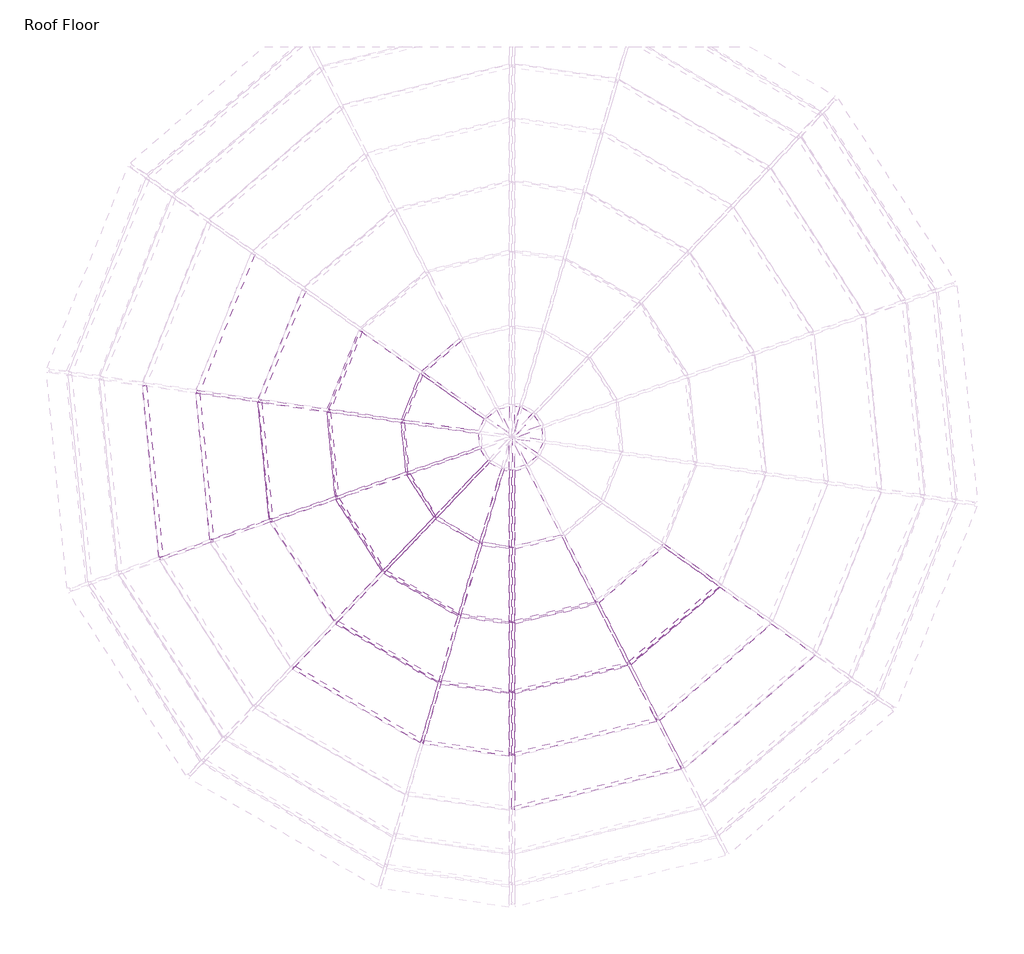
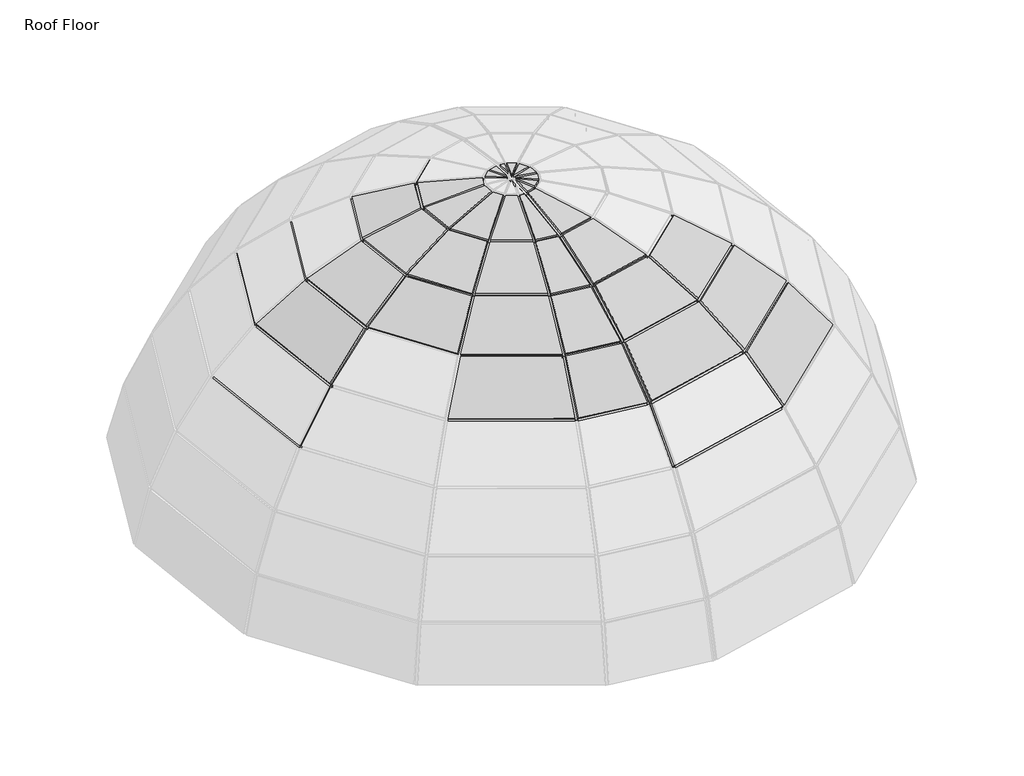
# One storey, part 2 of 5: 56 members, 33 plates.
"""IFC4 building model written with IfcOpenShell, lengths in millimetres."""

from ifc_helpers import new_model, si_unit, origin, place, context, project, spatial, transform, mapped, element, save
from components import member_a4b9d852, member_e5884c93, member_68b33a8a, member_7f7bd10d, member_27f65fe7, member_3534141e, member_a4aff84e, member_5ef621be, member_c4213f63, member_b6c57be0, member_ac816b31, member_27e61d6b, member_355504b0, member_dee8aa16, member_0ec1a058, member_85a1b8f2, member_4046197d, member_16c772f1, member_ac46e98e, member_b6a9e346, member_16816f3b, member_d3833f24, member_335e9b28, member_95e271e4, member_fbc4017a, system_panel_glazed_0487fba4, system_panel_glazed_ecd34a34, system_panel_glazed_bd6fc11e, system_panel_glazed_7ee87b59, system_panel_glazed_82f63ae4, system_panel_glazed_cc30576f, system_panel_glazed_e6c51f9e, system_panel_glazed_c38a1470, system_panel_glazed_e8cc6fa0, system_panel_glazed_475a38df, system_panel_glazed_a1227523, system_panel_glazed_6841621f, system_panel_glazed_d824ba65, system_panel_glazed_d98a6b36, system_panel_glazed_8f1ce6c8, system_panel_glazed_43588e67, system_panel_glazed_91be5447, system_panel_glazed_17da916d, system_panel_glazed_3ea0f70b, system_panel_glazed_2eba2ceb, system_panel_glazed_dba1addb, system_panel_glazed_f06ff00c

model = new_model("IFC4")

# Units and contexts
model_context = context("Model", 3, world=origin())
ifc_project = project(units=[si_unit("LENGTHUNIT", "METRE", prefix="MILLI")], contexts=[model_context])

# Site, building, storey
site = spatial("IfcSite", under=ifc_project)
building = spatial("IfcBuilding", under=site)
storey = spatial("IfcBuildingStorey", under=building, Name="Roof Floor", Elevation=15240.0)

# Members
placement = place(None, origin())
member_shape = member_a4b9d852(model_context)
element("IfcMember", 1, ObjectType="Rectangular Mullion : 1\" Square", at=placement, inside=storey, context=model_context, shape_type="MappedRepresentation", body=[
    mapped(member_shape, transform((-1076.5556828, -3418.7511629, 21675.0614442), x_axis=(-0.1768450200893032, 0.7291506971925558, 0.6611089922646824), y_axis=(0.15582488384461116, -0.6424824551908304, 0.7502898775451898), z_axis=(0.9718253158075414, 0.23570226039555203, 0.0))),
])
member_2_shape = member_e5884c93(model_context)
element("IfcMember", 2, ObjectType="Rectangular Mullion : 1\" Square", at=placement, inside=storey, context=model_context, shape_type="MappedRepresentation", body=[
    mapped(member_2_shape, transform((-5866.2465514, -1846.2239324, 21117.9670279), x_axis=(0.6270371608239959, 0.059616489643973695, 0.7767047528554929), y_axis=(-0.7732178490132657, -0.07351483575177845, 0.6298648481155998), z_axis=(0.09464965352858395, -0.9955106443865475, 0.0))),
])
member_3_shape = member_68b33a8a(model_context)
element("IfcMember", 3, ObjectType="Rectangular Mullion : 1\" Square", at=placement, inside=storey, context=model_context, shape_type="MappedRepresentation", body=[
    mapped(member_3_shape, transform((-838.3803456, -3880.8791972, 21117.9670279), x_axis=(-0.14846056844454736, 0.6121186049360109, 0.7767047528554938), y_axis=(0.1830710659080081, -0.7548213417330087, 0.6298648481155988), z_axis=(0.9718253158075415, 0.23570226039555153, 0.0))),
])
member_4_shape = member_7f7bd10d(model_context)
element("IfcMember", 4, ObjectType="Rectangular Mullion : 1\" Square", at=placement, inside=storey, context=model_context, shape_type="MappedRepresentation", body=[
    mapped(member_4_shape, transform((-5510.6873443, -247.8745755, 21675.0614442), x_axis=(-0.14266117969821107, -0.9897715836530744, 0.0), y_axis=(-0.6014088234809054, 0.08668433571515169, 0.7942249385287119), z_axis=(-0.7861012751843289, 0.11330506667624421, -0.6076238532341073))),
])
element("IfcMember", 5, ObjectType="Rectangular Mullion : 1\" Square", at=placement, inside=storey, context=model_context, shape_type="MappedRepresentation", body=[
    mapped(member_4_shape, transform((-4911.6781726, -334.2130363, 22138.0708204), x_axis=(-0.14266117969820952, -0.9897715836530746, 0.0), y_axis=(-0.46249475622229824, 0.0666618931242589, 0.8841124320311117), z_axis=(-0.8750693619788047, 0.12612852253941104, -0.4672742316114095))),
])
element("IfcMember", 6, ObjectType="Rectangular Mullion : 1\" Square", at=placement, inside=storey, context=model_context, shape_type="MappedRepresentation", body=[
    mapped(member_4_shape, transform((-4244.8753188, -430.3229705, 22494.1337848), x_axis=(-0.1426611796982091, -0.9897715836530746, 0.0), y_axis=(-0.31073361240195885, 0.04478773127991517, 0.9494412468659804), z_axis=(-0.9397299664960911, 0.13544840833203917, -0.3139447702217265))),
])
element("IfcMember", 7, ObjectType="Rectangular Mullion : 1\" Square", at=placement, inside=storey, context=model_context, shape_type="MappedRepresentation", body=[
    mapped(member_4_shape, transform((-826.0381641, -3877.8857785, 21117.9670279), x_axis=(0.8888888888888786, 0.4581228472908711, 0.0), y_axis=(0.3349313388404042, -0.6498622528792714, 0.6822756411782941), z_axis=(0.3125660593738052, -0.6064672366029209, -0.7310950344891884))),
])
element("IfcMember", 8, ObjectType="Rectangular Mullion : 1\" Square", at=placement, inside=storey, context=model_context, shape_type="MappedRepresentation", body=[
    mapped(member_4_shape, transform((-1064.2135013, -3415.7577442, 21675.0614442), x_axis=(0.8888888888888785, 0.45812284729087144, 0.0), y_axis=(0.27836636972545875, -0.5401100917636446, 0.7942249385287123), z_axis=(0.36385259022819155, -0.7059777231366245, -0.6076238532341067))),
])
element("IfcMember", 9, ObjectType="Rectangular Mullion : 1\" Square", at=placement, inside=storey, context=model_context, shape_type="MappedRepresentation", body=[
    mapped(member_4_shape, transform((-1341.4691751, -2877.8027191, 22138.0708204), x_axis=(0.8888888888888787, 0.4581228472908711, 0.0), y_axis=(0.21406900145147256, -0.41535487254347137, 0.8841124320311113), z_axis=(0.4050321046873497, -0.7858777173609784, -0.46727423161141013))),
])
element("IfcMember", 10, ObjectType="Rectangular Mullion : 1\" Square", at=placement, inside=storey, context=model_context, shape_type="MappedRepresentation", body=[
    mapped(member_4_shape, transform((-1650.1036388, -2278.9638985, 22494.1337848), x_axis=(0.8888888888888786, 0.45812284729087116, 0.0), y_axis=(0.14382527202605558, -0.27906201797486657, 0.9494412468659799), z_axis=(0.4349607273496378, -0.8439477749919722, -0.31394477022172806))),
])
element("IfcMember", 11, ObjectType="Rectangular Mullion : 1\" Square", at=placement, inside=storey, context=model_context, shape_type="MappedRepresentation", body=[
    mapped(member_4_shape, transform((-462.8630546, -2116.7552742, 22138.0708204), x_axis=(0.5802469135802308, 0.8144406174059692, 0.0), y_axis=(0.3805671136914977, -0.27113443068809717, 0.88411243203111), z_axis=(0.7200570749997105, -0.5130035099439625, -0.4672742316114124))),
])
member_5_shape = member_27f65fe7(model_context)
element("IfcMember", 12, ObjectType="Rectangular Mullion : 1\" Square", at=placement, inside=storey, context=model_context, shape_type="MappedRepresentation", body=[
    mapped(member_5_shape, transform((-3341.437887, -65.9192447, 22733.3596998), x_axis=(-0.5802469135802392, -0.8144406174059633, 0.0), y_axis=(-0.1237091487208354, 0.08813638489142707, 0.9883966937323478), z_axis=(-0.804990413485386, 0.5735141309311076, -0.15189462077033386))),
])
element("IfcMember", 13, ObjectType="Rectangular Mullion : 1\" Square", at=placement, inside=storey, context=model_context, shape_type="MappedRepresentation", body=[
    mapped(member_5_shape, transform((-3528.8010843, -533.5346577, 22733.3596998), x_axis=(-0.1426611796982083, -0.9897715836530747, 0.0), y_axis=(-0.15034097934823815, 0.02166946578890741, 0.9883966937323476), z_axis=(-0.9782869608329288, 0.14100583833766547, -0.1518946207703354))),
])
member_6_shape = member_3534141e(model_context)
element("IfcMember", 14, ObjectType="Rectangular Mullion : 1\" Square", at=placement, inside=storey, context=model_context, shape_type="MappedRepresentation", body=[
    mapped(member_6_shape, transform((-2471.1056157, -1001.4536154, 22849.1034008), x_axis=(-0.9993221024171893, -0.005591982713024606, 0.036387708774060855), y_axis=(0.036814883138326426, -0.15179165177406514, 0.9877266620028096), z_axis=(0.0, 0.9883966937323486, 0.1518946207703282))),
])
member_7_shape = member_a4aff84e(model_context)
element("IfcMember", 15, ObjectType="Rectangular Mullion : 1\" Square", at=placement, inside=storey, context=model_context, shape_type="MappedRepresentation", body=[
    mapped(member_7_shape, transform((-2471.1056157, -2478.0861261, 22494.1337848), x_axis=(0.9989777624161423, -0.014191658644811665, 0.04291884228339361), y_axis=(-0.045204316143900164, -0.31362384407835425, 0.9484706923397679), z_axis=(0.0, -0.9494412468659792, -0.31394477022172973))),
])
member_8_shape = member_5ef621be(model_context)
element("IfcMember", 16, ObjectType="Rectangular Mullion : 1\" Square", at=placement, inside=storey, context=model_context, shape_type="MappedRepresentation", body=[
    mapped(member_8_shape, transform((-2471.1056157, -1754.611896, 22733.3596998), x_axis=(0.9997604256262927, -0.003324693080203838, 0.02163418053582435), y_axis=(-0.021888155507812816, -0.15185823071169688, 0.988159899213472), z_axis=(0.0, -0.9883966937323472, -0.15189462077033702))),
])
member_9_shape = member_c4213f63(model_context)
element("IfcMember", 17, ObjectType="Rectangular Mullion : 1\" Square", at=placement, inside=storey, context=model_context, shape_type="MappedRepresentation", body=[
    mapped(member_9_shape, transform((-2471.1056157, -3756.9792025, 21675.0614442), x_axis=(-0.9846406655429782, -0.12764416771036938, 0.11912063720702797), y_axis=(0.1745931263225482, -0.719865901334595, 0.6717963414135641), z_axis=(0.0, 0.6822756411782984, 0.7310950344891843))),
])
member_10_shape = member_b6c57be0(model_context)
element("IfcMember", 18, ObjectType="Rectangular Mullion : 1\" Square", at=placement, inside=storey, context=model_context, shape_type="MappedRepresentation", body=[
    mapped(member_10_shape, transform((-2471.1056157, -3151.7797993, 22138.0708204), x_axis=(-0.9893147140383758, -0.08858896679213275, 0.11579460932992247), y_axis=(0.14579573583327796, -0.6011312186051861, 0.7857384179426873), z_axis=(0.0, 0.7942249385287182, 0.6076238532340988))),
])
member_11_shape = member_ac816b31(model_context)
element("IfcMember", 19, ObjectType="Rectangular Mullion : 1\" Square", at=placement, inside=storey, context=model_context, shape_type="MappedRepresentation", body=[
    mapped(member_11_shape, transform((-2471.1056157, -2478.0861261, 22494.1337848), x_axis=(-0.993639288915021, -0.05261965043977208, 0.0995597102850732), y_axis=(0.11260978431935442, -0.46430203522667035, 0.8784888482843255), z_axis=(0.0, 0.8841124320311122, 0.4672742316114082))),
])
member_12_shape = member_27e61d6b(model_context)
element("IfcMember", 20, ObjectType="Rectangular Mullion : 1\" Square", at=placement, inside=storey, context=model_context, shape_type="MappedRepresentation", body=[
    mapped(member_12_shape, transform((-2471.1056157, -1754.611896, 22733.3596998), x_axis=(-0.9971136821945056, -0.023835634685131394, 0.07208444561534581), y_axis=(0.07592301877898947, -0.3130386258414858, 0.9467008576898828), z_axis=(0.0, 0.9494412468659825, 0.3139447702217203))),
])
member_13_shape = member_355504b0(model_context)
element("IfcMember", 21, ObjectType="Rectangular Mullion : 1\" Square", at=placement, inside=storey, context=model_context, shape_type="MappedRepresentation", body=[
    mapped(member_13_shape, transform((-2496.2458139, -1750.988302, 22733.3596998), x_axis=(0.13878677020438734, 0.9628912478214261, 0.2314706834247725), y_axis=(-0.033021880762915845, -0.2291031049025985, 0.9728418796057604), z_axis=(0.9897715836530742, -0.14266117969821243, 0.0))),
])
member_14_shape = member_dee8aa16(model_context)
element("IfcMember", 22, ObjectType="Rectangular Mullion : 1\" Square", at=placement, inside=storey, context=model_context, shape_type="MappedRepresentation", body=[
    mapped(member_14_shape, transform((-2783.8842291, -1704.7570429, 22733.3596998), x_axis=(0.48743077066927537, 0.8430054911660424, 0.22749282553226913), y_axis=(-0.11387277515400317, -0.19694155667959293, 0.9737797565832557), z_axis=(0.8657044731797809, -0.5005554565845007, 0.0))),
])
element("IfcMember", 23, ObjectType="Rectangular Mullion : 1\" Square", at=placement, inside=storey, context=model_context, shape_type="MappedRepresentation", body=[
    mapped(member_14_shape, transform((-3215.8533052, -1448.26924, 22733.3596998), x_axis=(0.8194718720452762, 0.5260350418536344, 0.22749282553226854), y_axis=(-0.19144367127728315, -0.12289144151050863, 0.9737797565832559), z_axis=(0.5401991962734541, -0.8415371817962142, 0.0))),
])
element("IfcMember", 24, ObjectType="Rectangular Mullion : 1\" Square", at=placement, inside=storey, context=model_context, shape_type="MappedRepresentation", body=[
    mapped(member_14_shape, transform((-3482.3228948, -1022.3851788, 22733.3596998), x_axis=(0.9694081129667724, 0.09216791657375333, 0.22749282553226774), y_axis=(-0.22647152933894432, -0.02153211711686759, 0.973779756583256), z_axis=(0.09464965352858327, -0.9955106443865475, 0.0))),
])
element("IfcMember", 25, ObjectType="Rectangular Mullion : 1\" Square", at=placement, inside=storey, context=model_context, shape_type="MappedRepresentation", body=[
    mapped(member_14_shape, transform((-3524.0775334, -521.7457618, 22733.3596998), x_axis=(0.9039203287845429, -0.3621809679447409, 0.22749282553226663), y_axis=(-0.2111723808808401, 0.08461212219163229, 0.9737797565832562), z_axis=(-0.37193314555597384, -0.9282595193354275, 0.0))),
])
element("IfcMember", 26, ObjectType="Rectangular Mullion : 1\" Square", at=placement, inside=storey, context=model_context, shape_type="MappedRepresentation", body=[
    mapped(member_14_shape, transform((-3331.8384125, -57.6041927, 22733.3596998), x_axis=(0.6375613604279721, -0.736045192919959, 0.2274928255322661), y_axis=(-0.1489460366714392, 0.17195366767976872, 0.9737797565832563), z_axis=(-0.7558641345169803, -0.6547285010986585, 0.0))),
])
member_15_shape = member_0ec1a058(model_context)
element("IfcMember", 27, ObjectType="Rectangular Mullion : 1\" Square", at=placement, inside=storey, context=model_context, shape_type="MappedRepresentation", body=[
    mapped(member_15_shape, transform((-2471.1056157, -3756.9792025, 21675.0614442), x_axis=(0.9961867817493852, -0.05301285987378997, 0.06929309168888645), y_axis=(-0.08724617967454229, -0.6053068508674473, 0.7911963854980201), z_axis=(0.0, -0.7942249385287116, -0.6076238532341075))),
])
member_16_shape = member_85a1b8f2(model_context)
element("IfcMember", 28, ObjectType="Rectangular Mullion : 1\" Square", at=placement, inside=storey, context=model_context, shape_type="MappedRepresentation", body=[
    mapped(member_16_shape, transform((-2471.1056157, -3151.7797993, 22138.0708204), x_axis=(0.9977396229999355, -0.031400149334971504, 0.05941107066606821), y_axis=(-0.06719854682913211, -0.4662180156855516, 0.8821140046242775), z_axis=(0.0, -0.8841124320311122, -0.4672742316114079))),
])
member_17_shape = member_4046197d(model_context)
element("IfcMember", 29, ObjectType="Rectangular Mullion : 1\" Square", at=placement, inside=storey, context=model_context, shape_type="MappedRepresentation", body=[
    mapped(member_17_shape, transform((-2496.2458139, -2474.4625322, 22494.1337848), x_axis=(0.13145065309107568, 0.9119938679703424, 0.38857162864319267), y_axis=(-0.05543408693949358, -0.3845971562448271, 0.9214185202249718), z_axis=(0.989771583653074, -0.1426611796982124, 0.0))),
])
member_18_shape = member_16c772f1(model_context)
element("IfcMember", 30, ObjectType="Rectangular Mullion : 1\" Square", at=placement, inside=storey, context=model_context, shape_type="MappedRepresentation", body=[
    mapped(member_18_shape, transform((-2988.1962192, -2398.7826709, 22494.1337848), x_axis=(0.4624774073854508, 0.7998489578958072, 0.3825654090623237), y_axis=(-0.19149520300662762, -0.3311885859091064, 0.923928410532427), z_axis=(0.865704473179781, -0.5005554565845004, 0.0))),
])
element("IfcMember", 31, ObjectType="Rectangular Mullion : 1\" Square", at=placement, inside=storey, context=model_context, shape_type="MappedRepresentation", body=[
    mapped(member_18_shape, transform((-3715.4129599, -1971.5809187, 22494.1337848), x_axis=(0.7775201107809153, 0.4991053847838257, 0.38256540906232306), y_axis=(-0.3219430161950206, -0.20666152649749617, 0.9239284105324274), z_axis=(0.5401991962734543, -0.841537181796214, 0.0))),
])
element("IfcMember", 32, ObjectType="Rectangular Mullion : 1\" Square", at=placement, inside=storey, context=model_context, shape_type="MappedRepresentation", body=[
    mapped(member_18_shape, transform((-4166.1169574, -1258.6914241, 22494.1337848), x_axis=(0.919780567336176, 0.08744950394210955, 0.3825654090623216), y_axis=(-0.3808479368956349, -0.03620968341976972, 0.9239284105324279), z_axis=(0.09464965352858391, -0.9955106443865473, 0.0))),
])
element("IfcMember", 33, ObjectType="Rectangular Mullion : 1\" Square", at=placement, inside=storey, context=model_context, shape_type="MappedRepresentation", body=[
    mapped(member_18_shape, transform((-4240.1517679, -418.5340746, 22494.1337848), x_axis=(0.8576453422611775, -0.34363959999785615, 0.38256540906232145), y_axis=(-0.35511998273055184, 0.14228875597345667, 0.923928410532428), z_axis=(-0.3719331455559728, -0.9282595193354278, 0.0))),
])
member_19_shape = member_ac46e98e(model_context)
element("IfcMember", 34, ObjectType="Rectangular Mullion : 1\" Square", at=placement, inside=storey, context=model_context, shape_type="MappedRepresentation", body=[
    mapped(member_19_shape, transform((-1662.4458203, -2281.9573172, 22494.1337848), x_axis=(-0.21777201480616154, 0.8978970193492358, 0.38256540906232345), y_axis=(0.0901715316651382, -0.37178674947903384, 0.9239284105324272), z_axis=(0.9718253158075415, 0.23570226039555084, 0.0))),
])
member_20_shape = member_b6a9e346(model_context)
element("IfcMember", 35, ObjectType="Rectangular Mullion : 1\" Square", at=placement, inside=storey, context=model_context, shape_type="MappedRepresentation", body=[
    mapped(member_20_shape, transform((-2496.2458139, -3148.1562054, 22138.0708204), x_axis=(0.1204918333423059, 0.8359624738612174, 0.5353956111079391), y_axis=(-0.07638016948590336, -0.5299193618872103, 0.8446014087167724), z_axis=(0.9897715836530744, -0.14266117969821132, 0.0))),
])
member_21_shape = member_16816f3b(model_context)
element("IfcMember", 36, ObjectType="Rectangular Mullion : 1\" Square", at=placement, inside=storey, context=model_context, shape_type="MappedRepresentation", body=[
    mapped(member_21_shape, transform((-3178.4499827, -3045.0540309, 22138.0708204), x_axis=(0.42496420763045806, 0.7349703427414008, 0.5284165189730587), y_axis=(-0.2645017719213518, -0.4574525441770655, 0.8489852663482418), z_axis=(0.865704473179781, -0.5005554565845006, 0.0))),
])
element("IfcMember", 37, ObjectType="Rectangular Mullion : 1\" Square", at=placement, inside=storey, context=model_context, shape_type="MappedRepresentation", body=[
    mapped(member_21_shape, transform((-4802.8607619, -1478.7379934, 22138.0708204), x_axis=(0.8451738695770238, 0.08035616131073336, 0.5284165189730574), y_axis=(-0.5260442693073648, -0.050014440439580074, 0.8489852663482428), z_axis=(0.09464965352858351, -0.9955106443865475, 0.0))),
])
element("IfcMember", 38, ObjectType="Rectangular Mullion : 1\" Square", at=placement, inside=storey, context=model_context, shape_type="MappedRepresentation", body=[
    mapped(member_21_shape, transform((-4906.9546217, -322.4241404, 22138.0708204), x_axis=(0.7880786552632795, -0.3157657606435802, 0.5284165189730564), y_axis=(-0.4905076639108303, 0.19653561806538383, 0.8489852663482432), z_axis=(-0.3719331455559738, -0.9282595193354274, 0.0))),
])
element("IfcMember", 39, ObjectType="Rectangular Mullion : 1\" Square", at=placement, inside=storey, context=model_context, shape_type="MappedRepresentation", body=[
    mapped(member_21_shape, transform((-472.4625291, -2125.0703261, 22138.0708204), x_axis=(-0.5558548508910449, 0.6417175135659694, 0.5284165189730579), y_axis=(0.3459693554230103, -0.399411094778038, 0.8489852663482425), z_axis=(0.7558641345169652, 0.654728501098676, 0.0))),
])
member_22_shape = member_d3833f24(model_context)
element("IfcMember", 40, ObjectType="Rectangular Mullion : 1\" Square", at=placement, inside=storey, context=model_context, shape_type="MappedRepresentation", body=[
    mapped(member_22_shape, transform((-1353.8113566, -2880.7961378, 22138.0708204), x_axis=(-0.20010774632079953, 0.8250653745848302, 0.5284165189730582), y_axis=(0.12454896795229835, -0.5135285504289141, 0.8489852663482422), z_axis=(0.9718253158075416, 0.23570226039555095, 0.0))),
])
member_23_shape = member_335e9b28(model_context)
element("IfcMember", 41, ObjectType="Rectangular Mullion : 1\" Square", at=placement, inside=storey, context=model_context, shape_type="MappedRepresentation", body=[
    mapped(member_23_shape, transform((-2496.2458139, -3753.3556085, 21675.0614442), x_axis=(0.1061758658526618, 0.7366394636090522, 0.6678989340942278), y_axis=(-0.09528324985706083, -0.6610673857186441, 0.7442519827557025), z_axis=(0.9897715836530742, -0.1426611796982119, 0.0))),
])
member_24_shape = member_95e271e4(model_context)
element("IfcMember", 42, ObjectType="Rectangular Mullion : 1\" Square", at=placement, inside=storey, context=model_context, shape_type="MappedRepresentation", body=[
    mapped(member_24_shape, transform((-3349.3606929, -3625.6191408, 21675.0614442), x_axis=(0.3755616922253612, 0.6495293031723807, 0.6611089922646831), y_axis=(-0.3309217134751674, -0.5723250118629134, 0.7502898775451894), z_axis=(0.865704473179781, -0.5005554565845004, 0.0))),
])
element("IfcMember", 43, ObjectType="Rectangular Mullion : 1\" Square", at=placement, inside=storey, context=model_context, shape_type="MappedRepresentation", body=[
    mapped(member_24_shape, transform((-5374.8669805, -1676.4124822, 21675.0614442), x_axis=(0.7469215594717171, 0.07101467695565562, 0.6611089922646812), y_axis=(-0.6581410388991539, -0.06257373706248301, 0.750289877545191), z_axis=(0.09464965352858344, -0.9955106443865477, 0.0))),
])
element("IfcMember", 44, ObjectType="Rectangular Mullion : 1\" Square", at=placement, inside=storey, context=model_context, shape_type="MappedRepresentation", body=[
    mapped(member_24_shape, transform((-5505.9637934, -236.0856796, 21675.0614442), x_axis=(0.6964637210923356, -0.27905767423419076, 0.6611089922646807), y_axis=(-0.6136807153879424, 0.24588834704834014, 0.7502898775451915), z_axis=(-0.3719331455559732, -0.9282595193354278, 0.0))),
])
element("IfcMember", 45, ObjectType="Rectangular Mullion : 1\" Square", at=placement, inside=storey, context=model_context, shape_type="MappedRepresentation", body=[
    mapped(member_4_shape, transform((-5865.0445008, -1858.8669176, 21117.9670279), x_axis=(0.326627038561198, -0.9451533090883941, 0.0), y_axis=(-0.6909968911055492, -0.23879540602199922, 0.6822756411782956), z_axis=(-0.6448550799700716, -0.22284967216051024, -0.731095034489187))),
])
element("IfcMember", 46, ObjectType="Rectangular Mullion : 1\" Square", at=placement, inside=storey, context=model_context, shape_type="MappedRepresentation", body=[
    mapped(member_4_shape, transform((-5373.6649299, -1689.0554674, 21675.0614442), x_axis=(0.3266270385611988, -0.945153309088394, 0.0), y_axis=(-0.5742976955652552, -0.19846637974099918, 0.7942249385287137), z_axis=(-0.7506643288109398, -0.2594153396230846, -0.6076238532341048))),
])
element("IfcMember", 47, ObjectType="Rectangular Mullion : 1\" Square", at=placement, inside=storey, context=model_context, shape_type="MappedRepresentation", body=[
    mapped(member_4_shape, transform((-4801.6587113, -1491.3809786, 22138.0708204), x_axis=(0.3266270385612, -0.9451533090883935, 0.0), y_axis=(-0.44164578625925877, -0.15262439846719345, 0.8841124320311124), z_axis=(-0.8356217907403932, -0.288775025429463, -0.46727423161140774))),
])
element("IfcMember", 48, ObjectType="Rectangular Mullion : 1\" Square", at=placement, inside=storey, context=model_context, shape_type="MappedRepresentation", body=[
    mapped(member_4_shape, transform((-4164.9149068, -1271.3344092, 22494.1337848), x_axis=(0.3266270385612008, -0.9451533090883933, 0.0), y_axis=(-0.2967259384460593, -0.10254285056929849, 0.9494412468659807), z_axis=(-0.8973675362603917, -0.3101131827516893, -0.31394477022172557))),
])
element("IfcMember", 49, ObjectType="Rectangular Mullion : 1\" Square", at=placement, inside=storey, context=model_context, shape_type="MappedRepresentation", body=[
    mapped(member_4_shape, transform((-3708.5524301, -1982.2684409, 22494.1337848), x_axis=(0.7233314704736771, -0.6905009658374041, 0.0), y_axis=(-0.2167791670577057, -0.2270861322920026, 0.9494412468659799), z_axis=(-0.6555900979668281, -0.6867607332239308, -0.31394477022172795))),
])
element("IfcMember", 50, ObjectType="Rectangular Mullion : 1\" Square", at=placement, inside=storey, context=model_context, shape_type="MappedRepresentation", body=[
    mapped(member_4_shape, transform((-3338.3662461, -3631.976195, 21675.0614442), x_axis=(0.9592955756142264, -0.2824039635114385, 0.0), y_axis=(-0.17159538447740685, -0.5828908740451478, 0.7942249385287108), z_axis=(-0.22429227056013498, -0.7618964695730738, -0.6076238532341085))),
])
element("IfcMember", 51, ObjectType="Rectangular Mullion : 1\" Square", at=placement, inside=storey, context=model_context, shape_type="MappedRepresentation", body=[
    mapped(member_4_shape, transform((-3167.4555359, -3051.4110852, 22138.0708204), x_axis=(0.9592955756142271, -0.2824039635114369, 0.0), y_axis=(-0.13196009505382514, -0.44825410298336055, 0.8841124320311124), z_axis=(-0.24967685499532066, -0.8481251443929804, -0.46727423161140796))),
])
element("IfcMember", 52, ObjectType="Rectangular Mullion : 1\" Square", at=placement, inside=storey, context=model_context, shape_type="MappedRepresentation", body=[
    mapped(member_4_shape, transform((-2977.2017724, -2405.1397252, 22494.1337848), x_axis=(0.959295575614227, -0.282403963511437, 0.0), y_axis=(-0.08865924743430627, -0.30116582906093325, 0.9494412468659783), z_axis=(-0.26812597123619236, -0.9107947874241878, -0.31394477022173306))),
])
element("IfcMember", 53, ObjectType="Rectangular Mullion : 1\" Square", at=placement, inside=storey, context=model_context, shape_type="MappedRepresentation", body=[
    mapped(member_5_shape, transform((-3481.1208442, -1035.028164, 22733.3596998), x_axis=(0.32662703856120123, -0.945153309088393, 0.0), y_axis=(-0.1435637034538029, -0.04961289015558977, 0.9883966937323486), z_axis=(-0.9341864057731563, -0.32283708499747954, -0.15189462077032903))),
])
element("IfcMember", 54, ObjectType="Rectangular Mullion : 1\" Square", at=placement, inside=storey, context=model_context, shape_type="MappedRepresentation", body=[
    mapped(member_5_shape, transform((-3208.9927754, -1458.9567622, 22733.3596998), x_axis=(0.7233314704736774, -0.6905009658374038, 0.0), y_axis=(-0.10488338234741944, -0.10987015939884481, 0.9883966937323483), z_axis=(-0.6824888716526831, -0.7149384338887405, -0.15189462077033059))),
])
element("IfcMember", 55, ObjectType="Rectangular Mullion : 1\" Square", at=placement, inside=storey, context=model_context, shape_type="MappedRepresentation", body=[
    mapped(member_5_shape, transform((-2772.8897823, -1711.1140972, 22733.3596998), x_axis=(0.9592955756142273, -0.28240396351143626, 0.0), y_axis=(-0.042895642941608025, -0.1457118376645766, 0.9883966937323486), z_axis=(-0.27912714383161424, -0.9481645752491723, -0.15189462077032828))),
])
member_25_shape = member_fbc4017a(model_context)
element("IfcMember", 56, ObjectType="Rectangular Mullion : 1\" Square", at=placement, inside=storey, context=model_context, shape_type="MappedRepresentation", body=[
    mapped(member_25_shape, transform((-2471.1056157, -1001.4536154, 22849.1034008), x_axis=(0.9999876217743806, -0.00017314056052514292, 0.004972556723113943), y_axis=(-0.004975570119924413, -0.03479770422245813, 0.9993819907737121), z_axis=(0.0, -0.9993943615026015, -0.03479813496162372))),
])

# Plates
system_panel_glazed_shape = system_panel_glazed_0487fba4(model_context)
element("IfcPlate", 57, ObjectType="System Panel : Glazed", at=placement, inside=storey, context=model_context, shape_type="MappedRepresentation", body=[
    mapped(system_panel_glazed_shape, transform((-191.8757321, -3317.287633, 21127.3743739), x_axis=(0.7558641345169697, 0.6547285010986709, 0.0), y_axis=(-0.4849809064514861, 0.5598957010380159, -0.6717963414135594), z_axis=(-0.4398442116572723, 0.5077867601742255, 0.7407359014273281))),
])
system_panel_glazed_2_shape = system_panel_glazed_ecd34a34(model_context)
element("IfcPlate", 58, ObjectType="System Panel : Glazed", at=placement, inside=storey, context=model_context, shape_type="MappedRepresentation", body=[
    mapped(system_panel_glazed_2_shape, transform((-1763.7294541, -3575.1471024, 21682.9171425), x_axis=(0.9718253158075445, 0.2357022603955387, 0.0), y_axis=(-0.14579573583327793, 0.6011312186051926, -0.7857384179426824), z_axis=(-0.18520032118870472, 0.7636004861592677, 0.6185589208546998))),
])
system_panel_glazed_3_shape = system_panel_glazed_bd6fc11e(model_context)
element("IfcPlate", 59, ObjectType="System Panel : Glazed", at=placement, inside=storey, context=model_context, shape_type="MappedRepresentation", body=[
    mapped(system_panel_glazed_3_shape, transform((-523.6222459, -2934.2963761, 21682.9171425), x_axis=(0.7558641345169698, 0.654728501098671, 0.0), y_axis=(-0.4049881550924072, 0.46754650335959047, -0.7857384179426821), z_axis=(-0.5144453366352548, 0.593911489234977, 0.6185589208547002))),
])
element("IfcPlate", 60, ObjectType="System Panel : Glazed", at=placement, inside=storey, context=model_context, shape_type="MappedRepresentation", body=[
    mapped(system_panel_glazed_3_shape, transform((-5432.2420579, -967.5205241, 21682.9171425), x_axis=(0.0946496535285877, -0.9955106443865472, 0.0), y_axis=(0.6157819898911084, 0.05854638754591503, -0.785738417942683), z_axis=(0.7822109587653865, 0.07436986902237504, 0.618558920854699))),
])
element("IfcPlate", 61, ObjectType="System Panel : Glazed", at=placement, inside=storey, context=model_context, shape_type="MappedRepresentation", body=[
    mapped(system_panel_glazed_3_shape, transform((-3960.0028085, -3261.0153635, 21682.9171425), x_axis=(0.8657044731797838, -0.5005554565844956, 0.0), y_axis=(0.3096230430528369, 0.5354892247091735, -0.7857384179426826), z_axis=(0.3933056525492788, 0.6802172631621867, 0.6185589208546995))),
])
system_panel_glazed_4_shape = system_panel_glazed_7ee87b59(model_context)
element("IfcPlate", 62, ObjectType="System Panel : Glazed", at=placement, inside=storey, context=model_context, shape_type="MappedRepresentation", body=[
    mapped(system_panel_glazed_4_shape, transform((-2909.6282297, -3683.6205117, 21682.8282837), x_axis=(0.989771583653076, -0.14266117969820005, 0.0), y_axis=(0.08724617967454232, 0.6053068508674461, -0.7911963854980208), z_axis=(0.11287300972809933, 0.7831036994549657, 0.6115621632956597))),
])
system_panel_glazed_5_shape = system_panel_glazed_82f63ae4(model_context)
element("IfcPlate", 63, ObjectType="System Panel : Glazed", at=placement, inside=storey, context=model_context, shape_type="MappedRepresentation", body=[
    mapped(system_panel_glazed_5_shape, transform((-1902.6074708, -3002.4184853, 22144.1384086), x_axis=(0.9718253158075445, 0.23570226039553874, 0.0), y_axis=(-0.11260978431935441, 0.4643020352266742, -0.8784888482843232), z_axis=(-0.2070618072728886, 0.8537377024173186, 0.47776285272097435))),
])
system_panel_glazed_6_shape = system_panel_glazed_cc30576f(model_context)
element("IfcPlate", 64, ObjectType="System Panel : Glazed", at=placement, inside=storey, context=model_context, shape_type="MappedRepresentation", body=[
    mapped(system_panel_glazed_6_shape, transform((-909.4707952, -2488.8459653, 22144.1384086), x_axis=(0.7558641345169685, 0.6547285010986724, 0.0), y_axis=(-0.3128049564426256, 0.36112380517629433, -0.8784888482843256), z_axis=(-0.5751716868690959, 0.66401821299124, 0.47776285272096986))),
])
element("IfcPlate", 65, ObjectType="System Panel : Glazed", at=placement, inside=storey, context=model_context, shape_type="MappedRepresentation", body=[
    mapped(system_panel_glazed_6_shape, transform((-4845.5617205, -911.7410194, 22144.1384086), x_axis=(0.0946496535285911, -0.9955106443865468, 0.0), y_axis=(0.475618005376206, 0.04522008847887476, -0.8784888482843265), z_axis=(0.8745449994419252, 0.08314866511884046, 0.4777628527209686))),
])
element("IfcPlate", 66, ObjectType="System Panel : Glazed", at=placement, inside=storey, context=model_context, shape_type="MappedRepresentation", body=[
    mapped(system_panel_glazed_6_shape, transform((-4478.3097677, -1974.4497285, 22144.1384086), x_axis=(0.5401991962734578, -0.8415371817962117, 0.0), y_axis=(0.4020552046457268, 0.2580871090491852, -0.8784888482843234), z_axis=(0.7392810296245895, 0.4745589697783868, 0.4777628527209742))),
])
element("IfcPlate", 67, ObjectType="System Panel : Glazed", at=placement, inside=storey, context=model_context, shape_type="MappedRepresentation", body=[
    mapped(system_panel_glazed_6_shape, transform((-3665.0124477, -2750.8331818, 22144.1384086), x_axis=(0.865704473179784, -0.5005554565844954, 0.0), y_axis=(0.23914680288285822, 0.4136014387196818, -0.8784888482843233), z_axis=(0.43973238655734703, 0.7605117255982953, 0.4777628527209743))),
])
system_panel_glazed_7_shape = system_panel_glazed_e6c51f9e(model_context)
element("IfcPlate", 68, ObjectType="System Panel : Glazed", at=placement, inside=storey, context=model_context, shape_type="MappedRepresentation", body=[
    mapped(system_panel_glazed_7_shape, transform((-2824.0180109, -3089.5939905, 22144.0529771), x_axis=(0.9897715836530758, -0.1426611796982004, 0.0), y_axis=(0.0671985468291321, 0.4662180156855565, -0.882114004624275), z_axis=(0.12584342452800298, 0.8730913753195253, 0.4710359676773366))),
])
system_panel_glazed_8_shape = system_panel_glazed_c38a1470(model_context)
element("IfcPlate", 69, ObjectType="System Panel : Glazed", at=placement, inside=storey, context=model_context, shape_type="MappedRepresentation", body=[
    mapped(system_panel_glazed_8_shape, transform((-2057.1068274, -2365.3050025, 22498.2246338), x_axis=(0.9718253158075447, 0.23570226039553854, 0.0), y_axis=(-0.07592301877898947, 0.3130386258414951, -0.9467008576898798), z_axis=(-0.2231395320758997, 0.9200278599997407, 0.32211408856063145))),
])
system_panel_glazed_9_shape = system_panel_glazed_e8cc6fa0(model_context)
element("IfcPlate", 70, ObjectType="System Panel : Glazed", at=placement, inside=storey, context=model_context, shape_type="MappedRepresentation", body=[
    mapped(system_panel_glazed_9_shape, transform((-4076.6094444, -42.6960528, 22498.2246338), x_axis=(-0.3719331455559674, -0.9282595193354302, 0.0), y_axis=(0.29900546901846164, -0.11980490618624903, -0.9467008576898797), z_axis=(0.8787840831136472, -0.3521094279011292, 0.32211408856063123))),
])
element("IfcPlate", 71, ObjectType="System Panel : Glazed", at=placement, inside=storey, context=model_context, shape_type="MappedRepresentation", body=[
    mapped(system_panel_glazed_9_shape, transform((-4192.9259879, -849.6907075, 22498.2246338), x_axis=(0.0946496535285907, -0.995510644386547, 0.0), y_axis=(0.3206680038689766, 0.030487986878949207, -0.9467008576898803), z_axis=(0.9424507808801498, 0.08960490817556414, 0.3221140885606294))),
])
element("IfcPlate", 72, ObjectType="System Panel : Glazed", at=placement, inside=storey, context=model_context, shape_type="MappedRepresentation", body=[
    mapped(system_panel_glazed_9_shape, transform((-3926.615782, -1620.3065556, 22498.2246338), x_axis=(0.5401991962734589, -0.841537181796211, 0.0), y_axis=(0.271070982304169, 0.17400577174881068, -0.9467008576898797), z_axis=(0.7966839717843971, 0.5114070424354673, 0.3221140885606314))),
])
element("IfcPlate", 73, ObjectType="System Panel : Glazed", at=placement, inside=storey, context=model_context, shape_type="MappedRepresentation", body=[
    mapped(system_panel_glazed_9_shape, transform((-3336.8588725, -2183.2956308, 22498.2246338), x_axis=(0.865704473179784, -0.5005554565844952, 0.0), y_axis=(0.16123596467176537, 0.2788556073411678, -0.9467008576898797), z_axis=(0.4738762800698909, 0.819563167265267, 0.32211408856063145))),
])
system_panel_glazed_10_shape = system_panel_glazed_475a38df(model_context)
element("IfcPlate", 74, ObjectType="System Panel : Glazed", at=placement, inside=storey, context=model_context, shape_type="MappedRepresentation", body=[
    mapped(system_panel_glazed_10_shape, transform((-2728.7787665, -2428.7762305, 22498.1579687), x_axis=(0.9897715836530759, -0.1426611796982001, 0.0), y_axis=(0.04520431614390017, 0.3136238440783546, -0.9484706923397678), z_axis=(0.1353099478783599, 0.9387693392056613, 0.31686486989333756))),
])
system_panel_glazed_11_shape = system_panel_glazed_a1227523(model_context)
element("IfcPlate", 75, ObjectType="System Panel : Glazed", at=placement, inside=storey, context=model_context, shape_type="MappedRepresentation", body=[
    mapped(system_panel_glazed_11_shape, transform((-2222.9356485, -1681.5140361, 22735.3433422), x_axis=(0.9718253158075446, 0.2357022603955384, 0.0), y_axis=(-0.036814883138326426, 0.15179165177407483, -0.9877266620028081), z_axis=(-0.23280940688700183, 0.9598977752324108, 0.15619232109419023))),
])
system_panel_glazed_12_shape = system_panel_glazed_6841621f(model_context)
element("IfcPlate", 76, ObjectType="System Panel : Glazed", at=placement, inside=storey, context=model_context, shape_type="MappedRepresentation", body=[
    mapped(system_panel_glazed_12_shape, transform((-3423.4752789, -304.3925284, 22735.3433422), x_axis=(-0.3719331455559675, -0.92825951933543, 0.0), y_axis=(0.14498700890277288, -0.0580931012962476, -0.9877266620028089), z_axis=(0.9168666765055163, -0.3673682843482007, 0.15619232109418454))),
])
element("IfcPlate", 77, ObjectType="System Panel : Glazed", at=placement, inside=storey, context=model_context, shape_type="MappedRepresentation", body=[
    mapped(system_panel_glazed_12_shape, transform((-3492.4731507, -783.0941134, 22735.3433422), x_axis=(0.09464965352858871, -0.995510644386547, 0.0), y_axis=(0.15549111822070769, 0.014783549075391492, -0.987726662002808), z_axis=(0.9832924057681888, 0.09348798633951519, 0.1561923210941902))),
])
element("IfcPlate", 78, ObjectType="System Panel : Glazed", at=placement, inside=storey, context=model_context, shape_type="MappedRepresentation", body=[
    mapped(system_panel_glazed_12_shape, transform((-3334.5004592, -1240.2161349, 22735.3433422), x_axis=(0.5401991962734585, -0.8415371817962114, 0.0), y_axis=(0.13144164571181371, 0.08437496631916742, -0.9877266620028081), z_axis=(0.831208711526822, 0.5335691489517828, 0.15619232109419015))),
])
element("IfcPlate", 79, ObjectType="System Panel : Glazed", at=placement, inside=storey, context=model_context, shape_type="MappedRepresentation", body=[
    mapped(system_panel_glazed_12_shape, transform((-2984.6622469, -1574.1759215, 22735.3433422), x_axis=(0.8657044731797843, -0.5005554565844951, 0.0), y_axis=(0.07818291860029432, 0.13521639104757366, -0.9877266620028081), z_axis=(0.49441197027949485, 0.8550793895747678, 0.15619232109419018))),
])
system_panel_glazed_13_shape = system_panel_glazed_d824ba65(model_context)
element("IfcPlate", 80, ObjectType="System Panel : Glazed", at=placement, inside=storey, context=model_context, shape_type="MappedRepresentation", body=[
    mapped(system_panel_glazed_13_shape, transform((-2626.5558326, -1719.5266878, 22735.3082297), x_axis=(0.9897715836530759, -0.1426611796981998, 0.0), y_axis=(0.021888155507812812, 0.15185823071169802, -0.9881598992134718), z_axis=(0.14097205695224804, 0.9780525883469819, 0.15342755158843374))),
])
system_panel_glazed_14_shape = system_panel_glazed_d98a6b36(model_context)
element("IfcPlate", 81, ObjectType="System Panel : Glazed", at=placement, inside=storey, context=model_context, shape_type="MappedRepresentation", body=[
    mapped(system_panel_glazed_14_shape, transform((-2546.7250481, -609.0005025, 22856.7073347), x_axis=(0.9999649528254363, 0.00028901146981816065, 0.008367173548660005), y_axis=(0.008372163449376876, -0.03451931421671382, -0.9993689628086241), z_axis=(0.0, 0.9994039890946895, -0.034520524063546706))),
])
system_panel_glazed_15_shape = system_panel_glazed_8f1ce6c8(model_context)
element("IfcPlate", 82, ObjectType="System Panel : Glazed", at=placement, inside=storey, context=model_context, shape_type="MappedRepresentation", body=[
    mapped(system_panel_glazed_15_shape, transform((-2606.9508479, -645.3251758, 22855.7464195), x_axis=(0.9997295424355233, 0.0006245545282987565, 0.023247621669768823), y_axis=(0.023256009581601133, -0.026848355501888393, -0.9993689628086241), z_axis=(0.0, 0.9996393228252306, -0.026855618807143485))),
])
system_panel_glazed_16_shape = system_panel_glazed_43588e67(model_context)
element("IfcPlate", 83, ObjectType="System Panel : Glazed", at=placement, inside=storey, context=model_context, shape_type="MappedRepresentation", body=[
    mapped(system_panel_glazed_16_shape, transform((-2395.4861833, -982.2189768, 22849.1342886), x_axis=(0.9999649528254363, 0.0002890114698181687, -0.008367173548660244), y_axis=(-0.008372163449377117, 0.034519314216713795, -0.9993689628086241), z_axis=(0.0, 0.9994039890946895, 0.03452052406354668))),
])
system_panel_glazed_17_shape = system_panel_glazed_91be5447(model_context)
element("IfcPlate", 84, ObjectType="System Panel : Glazed", at=placement, inside=storey, context=model_context, shape_type="MappedRepresentation", body=[
    mapped(system_panel_glazed_17_shape, transform((-2335.2603835, -946.2448874, 22849.8468539), x_axis=(0.9997295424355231, 0.0006245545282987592, -0.023247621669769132), y_axis=(-0.023256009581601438, 0.026848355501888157, -0.9993689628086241), z_axis=(0.0, 0.9996393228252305, 0.02685561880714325))),
])
system_panel_glazed_18_shape = system_panel_glazed_17da916d(model_context)
element("IfcPlate", 85, ObjectType="System Panel : Glazed", at=placement, inside=storey, context=model_context, shape_type="MappedRepresentation", body=[
    mapped(system_panel_glazed_18_shape, transform((-2298.8726069, -849.3613514, 22852.1578434), x_axis=(0.9994562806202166, 0.00043583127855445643, -0.03296897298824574), y_axis=(-0.03297185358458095, 0.013211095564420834, -0.9993689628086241), z_axis=(0.0, 0.9999126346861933, 0.013218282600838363))),
])
system_panel_glazed_19_shape = system_panel_glazed_3ea0f70b(model_context)
element("IfcPlate", 86, ObjectType="System Panel : Glazed", at=placement, inside=storey, context=model_context, shape_type="MappedRepresentation", body=[
    mapped(system_panel_glazed_19_shape, transform((-2295.2492326, -716.1043234, 22853.8790033), x_axis=(0.9993746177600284, -0.00011895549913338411, -0.03536041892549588), y_axis=(-0.035360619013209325, -0.0033619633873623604, -0.999368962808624), z_axis=(0.0, 0.9999943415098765, -0.0033640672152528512))),
])
system_panel_glazed_20_shape = system_panel_glazed_2eba2ceb(model_context)
element("IfcPlate", 87, ObjectType="System Panel : Glazed", at=placement, inside=storey, context=model_context, shape_type="MappedRepresentation", body=[
    mapped(system_panel_glazed_20_shape, transform((-2309.054656, -656.9487383, 22854.5954822), x_axis=(0.9995531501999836, -0.0005738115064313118, -0.029885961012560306), y_axis=(-0.029891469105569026, -0.019187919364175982, -0.999368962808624), z_axis=(0.0, 0.9998157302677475, -0.01919649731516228))),
])
system_panel_glazed_21_shape = system_panel_glazed_dba1addb(model_context)
element("IfcPlate", 88, ObjectType="System Panel : Glazed", at=placement, inside=storey, context=model_context, shape_type="MappedRepresentation", body=[
    mapped(system_panel_glazed_21_shape, transform((-2358.8714038, -639.3911054, 22856.5695463), x_axis=(0.9998419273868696, -0.000546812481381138, -0.01777135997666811), y_axis=(-0.01777977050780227, -0.03074989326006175, -0.9993689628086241), z_axis=(0.0, 0.9995269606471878, -0.030754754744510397))),
])
system_panel_glazed_22_shape = system_panel_glazed_f06ff00c(model_context)
element("IfcPlate", 89, ObjectType="System Panel : Glazed", at=placement, inside=storey, context=model_context, shape_type="MappedRepresentation", body=[
    mapped(system_panel_glazed_22_shape, transform((-2422.0218647, -554.7414488, 22855.2222964), x_axis=(0.9999876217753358, -0.00017175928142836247, -0.004972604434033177), y_axis=(-0.004975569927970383, -0.034520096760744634, -0.9993916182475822), z_axis=(0.0, 0.9994039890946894, -0.034520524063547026))),
])

save(model, "model.ifc")
